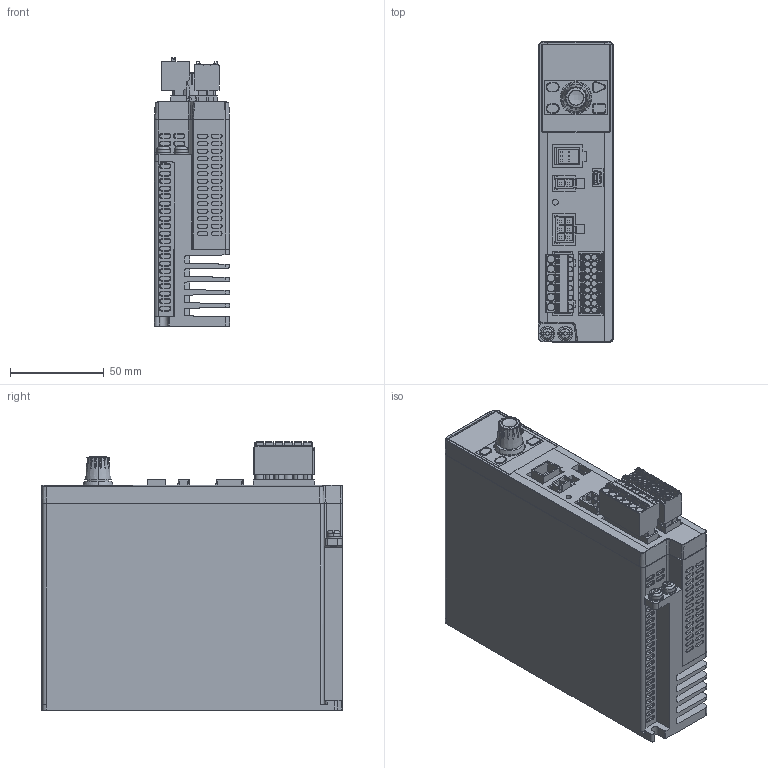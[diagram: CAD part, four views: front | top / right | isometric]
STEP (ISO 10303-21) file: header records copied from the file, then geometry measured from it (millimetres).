
FILE_DESCRIPTION (( 'STEP AP203' ), '1' );
FILE_NAME ('A1710.step', '2019-09-30T07:51:08', ( '' ), ( '' ), 'SwSTEP 2.0', 'SolidWorks 2017', '' );
FILE_SCHEMA (( 'CONFIG_CONTROL_DESIGN' ));
Products named in the file (1): A1710
Bounding box: 40 x 160 x 143 mm (x, y, z)
Volume: 675445.6 mm3; surface area: 114574.2 mm2
Topology: 1 solids, 1 shells, 3302 faces, 8932 edges, 5858 vertices
Faces by surface type: plane 1919, cylinder 894, bspline 370, cone 73, torus 39, sphere 7
Entity records: 133443 total; most frequent: CARTESIAN_POINT 52375, ORIENTED_EDGE 17854, DIRECTION 15269, EDGE_CURVE 8927, LINE 5963, VECTOR 5963, VERTEX_POINT 5858, AXIS2_PLACEMENT_3D 4653
